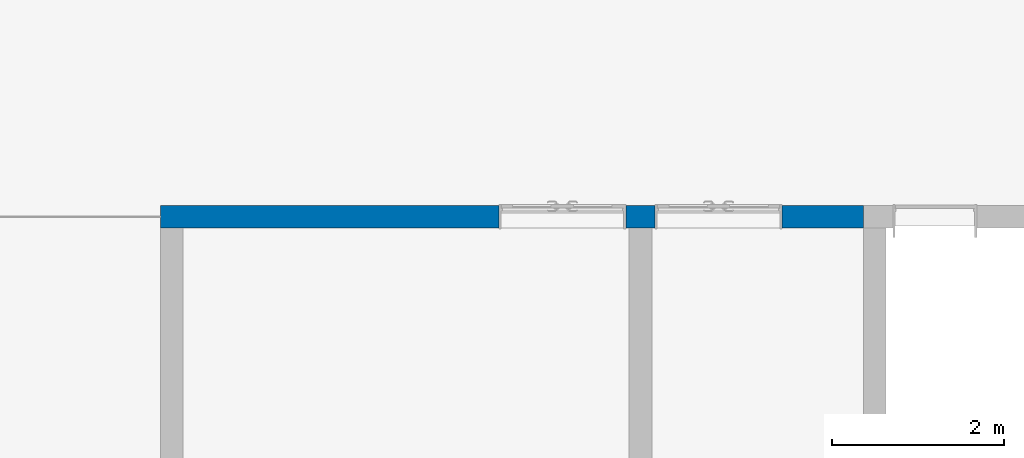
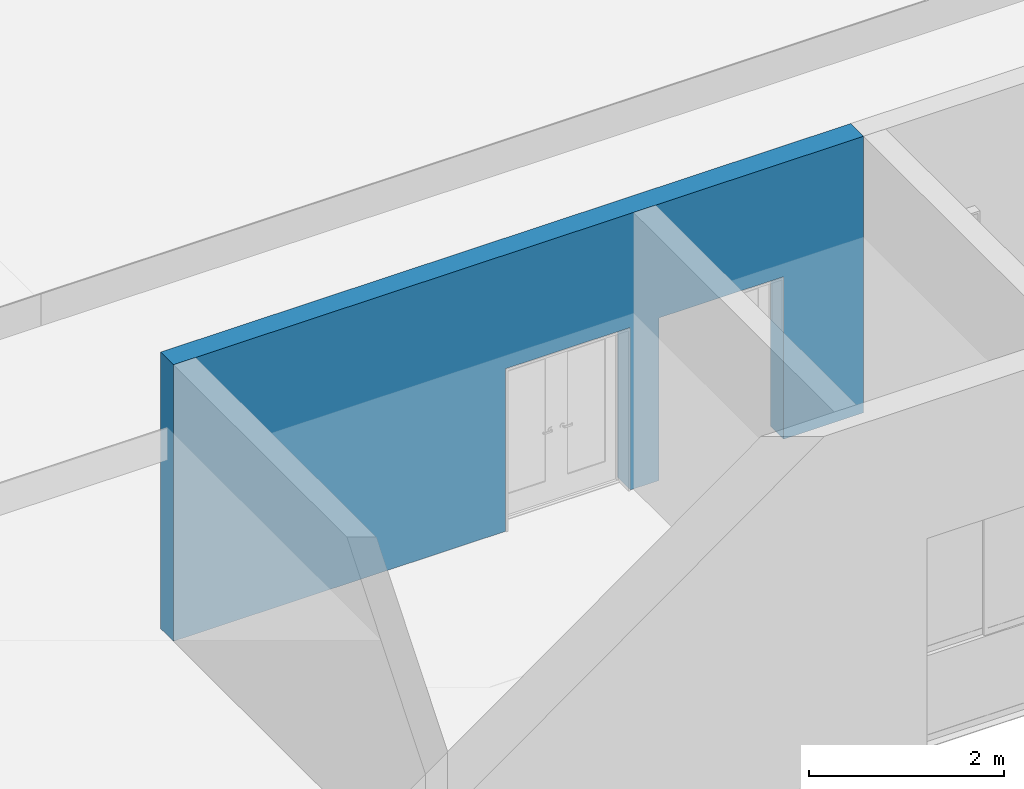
# One storey, part 2 of 11: 1 wall, 2 openings.
"""IFC4X3 building model written with IfcOpenShell, lengths in millimetres."""

from ifc_helpers import new_model, entity, si_unit, converted_unit, derived_unit, direction, frame, frame_2d, origin, place, context, subcontext, project, spatial, rectangle, extrude, material, layer, layer_set, type_object, element, save


model = new_model("IFC4X3")

# Units and contexts
model_context = context("Model", 3, precision=0.01, world=origin(), true_north=direction((6.12303176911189e-17, 1.0)))
body_context = subcontext(model_context, "Body", "Model", "MODEL_VIEW")
ifc_project = project(units=[si_unit("LENGTHUNIT", "METRE", prefix="MILLI"), si_unit("AREAUNIT", "SQUARE_METRE"), si_unit("VOLUMEUNIT", "CUBIC_METRE"), converted_unit("PLANEANGLEUNIT", "DEGREE", entity("IfcPlaneAngleMeasure", 0.0174532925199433), si_unit("PLANEANGLEUNIT", "RADIAN"), dimensions=[0, 0, 0, 0, 0, 0, 0]), si_unit("MASSUNIT", "GRAM", prefix="KILO"), derived_unit("MASSDENSITYUNIT", [(si_unit("MASSUNIT", "GRAM", prefix="KILO"), 1), (si_unit("LENGTHUNIT", "METRE"), -3)]), derived_unit("IONCONCENTRATIONUNIT", [(si_unit("MASSUNIT", "GRAM", prefix="KILO"), 1), (si_unit("LENGTHUNIT", "METRE"), -3)]), derived_unit("MOMENTOFINERTIAUNIT", [(si_unit("LENGTHUNIT", "METRE"), 4)]), si_unit("TIMEUNIT", "SECOND"), si_unit("FREQUENCYUNIT", "HERTZ"), si_unit("THERMODYNAMICTEMPERATUREUNIT", "DEGREE_CELSIUS"), derived_unit("THERMALTRANSMITTANCEUNIT", [(si_unit("MASSUNIT", "GRAM", prefix="KILO"), 1), (si_unit("THERMODYNAMICTEMPERATUREUNIT", "KELVIN"), -1), (si_unit("TIMEUNIT", "SECOND"), -3)]), derived_unit("THERMALCONDUCTANCEUNIT", [(si_unit("MASSUNIT", "GRAM", prefix="KILO"), 1), (si_unit("THERMODYNAMICTEMPERATUREUNIT", "KELVIN"), -1), (si_unit("TIMEUNIT", "SECOND"), -3), (si_unit("LENGTHUNIT", "METRE"), 1)]), derived_unit("VOLUMETRICFLOWRATEUNIT", [(si_unit("LENGTHUNIT", "METRE", prefix="DECI"), 3), (si_unit("TIMEUNIT", "SECOND"), -1)]), derived_unit("MASSFLOWRATEUNIT", [(si_unit("MASSUNIT", "GRAM", prefix="KILO"), 1), (si_unit("TIMEUNIT", "SECOND"), -1)]), derived_unit("ROTATIONALFREQUENCYUNIT", [(si_unit("TIMEUNIT", "SECOND"), -1)]), si_unit("ELECTRICCURRENTUNIT", "AMPERE"), si_unit("ELECTRICVOLTAGEUNIT", "VOLT"), si_unit("POWERUNIT", "WATT"), si_unit("FORCEUNIT", "NEWTON", prefix="KILO"), si_unit("ILLUMINANCEUNIT", "LUX"), si_unit("LUMINOUSFLUXUNIT", "LUMEN"), si_unit("LUMINOUSINTENSITYUNIT", "CANDELA"), si_unit("ENERGYUNIT", "JOULE"), derived_unit("USERDEFINED", [(si_unit("MASSUNIT", "GRAM", prefix="KILO"), -1), (si_unit("LENGTHUNIT", "METRE"), -2), (si_unit("TIMEUNIT", "SECOND"), 3), (si_unit("LUMINOUSFLUXUNIT", "LUMEN"), 1)]), derived_unit("USERDEFINED", [(si_unit("MASSUNIT", "GRAM", prefix="KILO"), 1), (si_unit("TIMEUNIT", "SECOND"), -3), (si_unit("LENGTHUNIT", "METRE"), 3), (si_unit("ELECTRICCURRENTUNIT", "AMPERE"), -2)]), derived_unit("SOUNDPOWERUNIT", [(si_unit("MASSUNIT", "GRAM", prefix="KILO"), 1), (si_unit("TIMEUNIT", "SECOND"), -3), (si_unit("LENGTHUNIT", "METRE"), 2)]), derived_unit("SOUNDPRESSUREUNIT", [(si_unit("MASSUNIT", "GRAM", prefix="KILO"), 1), (si_unit("LENGTHUNIT", "METRE"), -1), (si_unit("TIMEUNIT", "SECOND"), -2)]), derived_unit("LINEARVELOCITYUNIT", [(si_unit("LENGTHUNIT", "METRE"), 1), (si_unit("TIMEUNIT", "SECOND"), -1)]), si_unit("PRESSUREUNIT", "PASCAL"), derived_unit("USERDEFINED", [(si_unit("MASSUNIT", "GRAM", prefix="KILO"), 1), (si_unit("LENGTHUNIT", "METRE"), -2), (si_unit("TIMEUNIT", "SECOND"), -2)]), derived_unit("LINEARFORCEUNIT", [(si_unit("MASSUNIT", "GRAM", prefix="KILO"), 1), (si_unit("TIMEUNIT", "SECOND"), -2)]), derived_unit("PLANARFORCEUNIT", [(si_unit("MASSUNIT", "GRAM", prefix="KILO"), 1), (si_unit("LENGTHUNIT", "METRE"), -1), (si_unit("TIMEUNIT", "SECOND"), -2)]), derived_unit("SPECIFICHEATCAPACITYUNIT", [(si_unit("THERMODYNAMICTEMPERATUREUNIT", "KELVIN"), -1), (si_unit("LENGTHUNIT", "METRE"), 2), (si_unit("TIMEUNIT", "SECOND"), -2)]), derived_unit("HEATFLUXDENSITYUNIT", [(si_unit("MASSUNIT", "GRAM", prefix="KILO"), 1), (si_unit("TIMEUNIT", "SECOND"), -3)]), derived_unit("HEATINGVALUEUNIT", [(si_unit("LENGTHUNIT", "METRE"), 2), (si_unit("TIMEUNIT", "SECOND"), -2)]), derived_unit("VAPORPERMEABILITYUNIT", [(si_unit("LENGTHUNIT", "METRE"), -1), (si_unit("TIMEUNIT", "SECOND"), 1)]), derived_unit("DYNAMICVISCOSITYUNIT", [(si_unit("MASSUNIT", "GRAM", prefix="KILO"), 1), (si_unit("TIMEUNIT", "SECOND"), -1), (si_unit("LENGTHUNIT", "METRE"), -1)]), derived_unit("THERMALEXPANSIONCOEFFICIENTUNIT", [(si_unit("THERMODYNAMICTEMPERATUREUNIT", "KELVIN"), -1)]), derived_unit("MODULUSOFELASTICITYUNIT", [(si_unit("MASSUNIT", "GRAM", prefix="KILO"), 1), (si_unit("LENGTHUNIT", "METRE"), -1), (si_unit("TIMEUNIT", "SECOND"), -2)]), derived_unit("ISOTHERMALMOISTURECAPACITYUNIT", [(si_unit("MASSUNIT", "GRAM", prefix="KILO"), -1), (si_unit("LENGTHUNIT", "METRE"), 3)]), derived_unit("MOISTUREDIFFUSIVITYUNIT", [(si_unit("TIMEUNIT", "SECOND"), -1), (si_unit("LENGTHUNIT", "METRE"), 2)]), derived_unit("AREADENSITYUNIT", [(si_unit("MASSUNIT", "GRAM", prefix="KILO"), 1), (si_unit("LENGTHUNIT", "METRE"), 2)]), derived_unit("MASSPERLENGTHUNIT", [(si_unit("MASSUNIT", "GRAM", prefix="KILO"), 1), (si_unit("LENGTHUNIT", "METRE"), -1)]), derived_unit("THERMALRESISTANCEUNIT", [(si_unit("MASSUNIT", "GRAM", prefix="KILO"), -1), (si_unit("TIMEUNIT", "SECOND"), 3), (si_unit("THERMODYNAMICTEMPERATUREUNIT", "KELVIN"), 1)]), derived_unit("ACCELERATIONUNIT", [(si_unit("LENGTHUNIT", "METRE"), 1), (si_unit("TIMEUNIT", "SECOND"), -2)]), derived_unit("ANGULARVELOCITYUNIT", [(si_unit("TIMEUNIT", "SECOND"), -1), (si_unit("PLANEANGLEUNIT", "RADIAN"), 1)]), derived_unit("LINEARSTIFFNESSUNIT", [(si_unit("MASSUNIT", "GRAM", prefix="KILO"), 1), (si_unit("TIMEUNIT", "SECOND"), -2)]), derived_unit("WARPINGCONSTANTUNIT", [(si_unit("LENGTHUNIT", "METRE"), 6)]), derived_unit("LINEARMOMENTUNIT", [(si_unit("MASSUNIT", "GRAM", prefix="KILO"), 1), (si_unit("LENGTHUNIT", "METRE"), 1), (si_unit("TIMEUNIT", "SECOND"), -2)]), derived_unit("TORQUEUNIT", [(si_unit("MASSUNIT", "GRAM", prefix="KILO"), 1), (si_unit("LENGTHUNIT", "METRE"), 2), (si_unit("TIMEUNIT", "SECOND"), -2)])], contexts=[model_context])

# Site, building, storey
site_placement = place(None, origin())
site = spatial("IfcSite", under=ifc_project, at=site_placement, Name="Default", CompositionType="ELEMENT")
building_placement = place(site_placement, origin())
building = spatial("IfcBuilding", under=site, at=building_placement, Name="事務所ビル", CompositionType="ELEMENT")
storey_placement = place(building_placement, frame((0.0, 0.0, 8000.0)))
storey = spatial("IfcBuildingStorey", under=building, at=storey_placement, Name="3FL", CompositionType="ELEMENT", Elevation=8000.0)

# Wall, openings
ifc_material_1 = material(Name="せっこうボード", Category="一般")
ifc_layer_1 = layer(ifc_material_1, 15.0, Name="せっこうボード", Category="一般")
ifc_material_2 = material(Name="合板", Category="一般")
ifc_layer_2 = layer(ifc_material_2, 12.0, Name="合板", Category="一般")
ifc_material_3 = material(Name="天然木材", Category="一般")
ifc_layer_3 = layer(ifc_material_3, 210.0, Name="天然木材", Category="一般")
ifc_layer_4 = layer(ifc_material_2, 12.0, Name="合板", Category="一般")
ifc_layer_5 = layer(ifc_material_1, 15.0, Name="せっこうボード", Category="一般")
ifc_layer_set = layer_set([ifc_layer_1, ifc_layer_2, ifc_layer_3, ifc_layer_4, ifc_layer_5], Name="標準壁:GB-R15_構造用合板12_木210_構造用合板12_GB-R15")
wall_type = type_object("IfcWallType", Name="標準壁:GB-R15_構造用合板12_木210_構造用合板12_GB-R15", PredefinedType="STANDARD", material=ifc_layer_set)
wall_placement = place(storey_placement, frame((10788.0, 5460.0, 0.0)))
wall = element("IfcWall", 1, at=wall_placement, inside=storey, type_object=wall_type, material=ifc_layer_set, Name="標準壁:GB-R15_構造用合板12_木210_構造用合板12_GB-R15", ObjectType="標準壁:GB-R15_構造用合板12_木210_構造用合板12_GB-R15", PredefinedType="NOTDEFINED", context=body_context, shape_type="SweptSolid", body=[
    extrude(rectangle(XDim=8190.00000000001, YDim=264.000000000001, at=frame_2d((4095.0, 1.56319401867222e-13), x_axis=(-1.0, 0.0))), origin(), (0.0, 0.0, 1.0), 3470.0),
])
opening_1_placement = place(wall_placement, frame((3942.0, -132.0, -15.0)))
element("IfcOpeningElement", 2, at=opening_1_placement, cuts=wall, Name="鋼製_大枠_両開き_框:1400x2000:1", PredefinedType="OPENING", context=body_context, shape_type="SweptSolid", body=[
    extrude(rectangle(XDim=2055.00000000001, YDim=1480.0, at=frame_2d((1027.5, 739.999999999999), x_axis=(-1.0, 0.0))), frame((0.0, 0.0, 0.0), z_axis=(0.0, 1.0, 0.0), x_axis=(0.0, 0.0, 1.0)), (0.0, 0.0, 1.0), 264.0),
])
opening_2_placement = place(wall_placement, frame((5762.0, -132.0, -15.0)))
element("IfcOpeningElement", 3, at=opening_2_placement, cuts=wall, Name="鋼製_大枠_両開き_框:1400x2000:1", PredefinedType="OPENING", context=body_context, shape_type="SweptSolid", body=[
    extrude(rectangle(XDim=2055.00000000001, YDim=1480.0, at=frame_2d((1027.5, 739.999999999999), x_axis=(-1.0, 0.0))), frame((0.0, 0.0, 0.0), z_axis=(0.0, 1.0, 0.0), x_axis=(0.0, 0.0, 1.0)), (0.0, 0.0, 1.0), 264.0),
])

save(model, "model.ifc")
